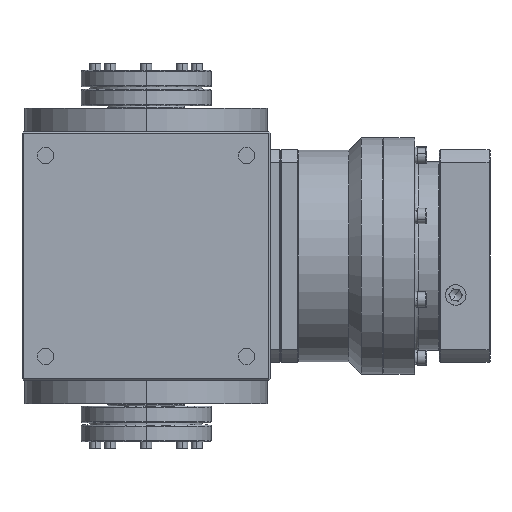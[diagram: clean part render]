
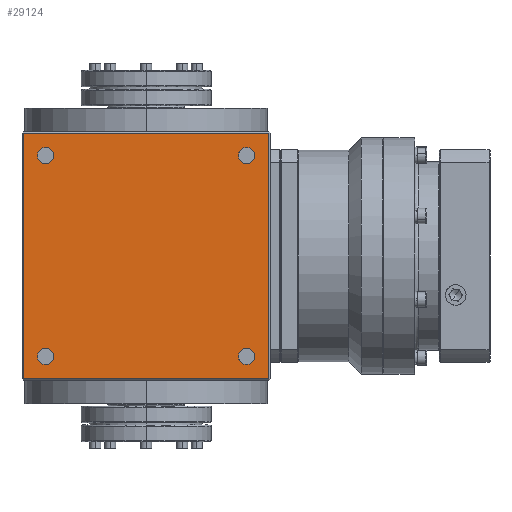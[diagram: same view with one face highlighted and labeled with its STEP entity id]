
A CAD part, left-side view. The second image highlights one B-rep face of the part: STEP entity #29124.
In plain terms, the highlighted planar face has unit normal (-1, 0, 0).
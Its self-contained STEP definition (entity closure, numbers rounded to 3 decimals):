
#639 = ORIENTED_EDGE ( 'NONE', *, *, #10926, .T. ) ;
#918 = EDGE_CURVE ( 'NONE', #35827, #5108, #8283, .T. ) ;
#1322 = LINE ( 'NONE', #35251, #30535 ) ;
#1359 = DIRECTION ( 'NONE',  ( 0., 0., 1. ) ) ;
#2185 = CARTESIAN_POINT ( 'NONE',  ( -105., 85., 92. ) ) ;
#2782 = VERTEX_POINT ( 'NONE', #10940 ) ;
#3559 = VERTEX_POINT ( 'NONE', #2185 ) ;
#3730 = DIRECTION ( 'NONE',  ( 0., 0., 1. ) ) ;
#4214 = CIRCLE ( 'NONE', #16076, 7. ) ;
#4526 = DIRECTION ( 'NONE',  ( 0., 1., 0. ) ) ;
#4630 = EDGE_CURVE ( 'NONE', #3559, #14500, #4214, .T. ) ;
#4718 = DIRECTION ( 'NONE',  ( 1., 0., 0. ) ) ;
#4726 = CARTESIAN_POINT ( 'NONE',  ( -105., 105., -104. ) ) ;
#4922 = DIRECTION ( 'NONE',  ( 0., 0., 1. ) ) ;
#4924 = CARTESIAN_POINT ( 'NONE',  ( -105., -85., 78. ) ) ;
#4932 = AXIS2_PLACEMENT_3D ( 'NONE', #14213, #11109, #10510 ) ;
#4976 = ORIENTED_EDGE ( 'NONE', *, *, #22644, .T. ) ;
#5108 = VERTEX_POINT ( 'NONE', #39329 ) ;
#5401 = EDGE_CURVE ( 'NONE', #18583, #21544, #31016, .T. ) ;
#6432 = CARTESIAN_POINT ( 'NONE',  ( -105., 85., -85. ) ) ;
#6719 = EDGE_CURVE ( 'NONE', #14500, #3559, #25677, .T. ) ;
#7036 = ORIENTED_EDGE ( 'NONE', *, *, #10152, .T. ) ;
#7819 = CARTESIAN_POINT ( 'NONE',  ( -105., -85., -85. ) ) ;
#7827 = VERTEX_POINT ( 'NONE', #25464 ) ;
#8065 = VECTOR ( 'NONE', #10081, 1000. ) ;
#8144 = EDGE_LOOP ( 'NONE', ( #38658, #35632 ) ) ;
#8259 = AXIS2_PLACEMENT_3D ( 'NONE', #23483, #4718, #4922 ) ;
#8283 = CIRCLE ( 'NONE', #8259, 7. ) ;
#8310 = LINE ( 'NONE', #18009, #15072 ) ;
#8893 = FACE_BOUND ( 'NONE', #18760, .T. ) ;
#8936 = DIRECTION ( 'NONE',  ( 0., 1., 0. ) ) ;
#10081 = DIRECTION ( 'NONE',  ( 0., 0., 1. ) ) ;
#10152 = EDGE_CURVE ( 'NONE', #5108, #35827, #22631, .T. ) ;
#10189 = DIRECTION ( 'NONE',  ( 0., 0., 1. ) ) ;
#10195 = CARTESIAN_POINT ( 'NONE',  ( -105., 85., 78. ) ) ;
#10214 = EDGE_LOOP ( 'NONE', ( #4976, #40878, #639, #32397 ) ) ;
#10510 = DIRECTION ( 'NONE',  ( 0., 0., 1. ) ) ;
#10926 = EDGE_CURVE ( 'NONE', #28114, #16992, #1322, .T. ) ;
#10940 = CARTESIAN_POINT ( 'NONE',  ( -105., -104., -104. ) ) ;
#11109 = DIRECTION ( 'NONE',  ( 1., 0., 0. ) ) ;
#11997 = CARTESIAN_POINT ( 'NONE',  ( -105., -85., -78. ) ) ;
#12770 = EDGE_CURVE ( 'NONE', #32969, #7827, #31982, .T. ) ;
#13193 = AXIS2_PLACEMENT_3D ( 'NONE', #6432, #19612, #3730 ) ;
#13580 = AXIS2_PLACEMENT_3D ( 'NONE', #25378, #34928, #18981 ) ;
#14213 = CARTESIAN_POINT ( 'NONE',  ( -105., -85., 85. ) ) ;
#14500 = VERTEX_POINT ( 'NONE', #10195 ) ;
#14820 = DIRECTION ( 'NONE',  ( 1., 0., 0. ) ) ;
#14839 = EDGE_LOOP ( 'NONE', ( #23726, #39467 ) ) ;
#14929 = EDGE_LOOP ( 'NONE', ( #26422, #28140 ) ) ;
#15002 = EDGE_CURVE ( 'NONE', #21544, #18583, #27689, .T. ) ;
#15072 = VECTOR ( 'NONE', #8936, 1000. ) ;
#15493 = FACE_BOUND ( 'NONE', #8144, .T. ) ;
#16076 = AXIS2_PLACEMENT_3D ( 'NONE', #23849, #20345, #1359 ) ;
#16685 = CARTESIAN_POINT ( 'NONE',  ( -105., 104., 104. ) ) ;
#16992 = VERTEX_POINT ( 'NONE', #22292 ) ;
#17705 = CARTESIAN_POINT ( 'NONE',  ( -105., 85., -85. ) ) ;
#17707 = CARTESIAN_POINT ( 'NONE',  ( -105., -104., 104. ) ) ;
#18009 = CARTESIAN_POINT ( 'NONE',  ( -105., 0., 104. ) ) ;
#18583 = VERTEX_POINT ( 'NONE', #30958 ) ;
#18650 = AXIS2_PLACEMENT_3D ( 'NONE', #7819, #35548, #39451 ) ;
#18760 = EDGE_LOOP ( 'NONE', ( #35322, #7036 ) ) ;
#18981 = DIRECTION ( 'NONE',  ( 0., 0., 1. ) ) ;
#19612 = DIRECTION ( 'NONE',  ( 1., 0., 0. ) ) ;
#20345 = DIRECTION ( 'NONE',  ( 1., 0., 0. ) ) ;
#21465 = FACE_BOUND ( 'NONE', #14929, .T. ) ;
#21544 = VERTEX_POINT ( 'NONE', #32178 ) ;
#22292 = CARTESIAN_POINT ( 'NONE',  ( -105., 104., -104. ) ) ;
#22631 = CIRCLE ( 'NONE', #18650, 7. ) ;
#22644 = EDGE_CURVE ( 'NONE', #2782, #29360, #37610, .T. ) ;
#23483 = CARTESIAN_POINT ( 'NONE',  ( -105., -85., -85. ) ) ;
#23698 = AXIS2_PLACEMENT_3D ( 'NONE', #29178, #36006, #10189 ) ;
#23726 = ORIENTED_EDGE ( 'NONE', *, *, #5401, .T. ) ;
#23849 = CARTESIAN_POINT ( 'NONE',  ( -105., 85., 85. ) ) ;
#24777 = CIRCLE ( 'NONE', #13580, 7. ) ;
#25378 = CARTESIAN_POINT ( 'NONE',  ( -105., -85., 85. ) ) ;
#25464 = CARTESIAN_POINT ( 'NONE',  ( -105., -85., 92. ) ) ;
#25574 = CARTESIAN_POINT ( 'NONE',  ( -105., 105., -105. ) ) ;
#25677 = CIRCLE ( 'NONE', #23698, 7. ) ;
#26422 = ORIENTED_EDGE ( 'NONE', *, *, #4630, .T. ) ;
#27689 = CIRCLE ( 'NONE', #37649, 7. ) ;
#28114 = VERTEX_POINT ( 'NONE', #16685 ) ;
#28140 = ORIENTED_EDGE ( 'NONE', *, *, #6719, .T. ) ;
#29081 = EDGE_CURVE ( 'NONE', #7827, #32969, #24777, .T. ) ;
#29124 = ADVANCED_FACE ( 'NONE', ( #31198, #15493, #31798, #8893, #21465 ), #34105, .T. ) ;
#29178 = CARTESIAN_POINT ( 'NONE',  ( -105., 85., 85. ) ) ;
#29360 = VERTEX_POINT ( 'NONE', #17707 ) ;
#29783 = VECTOR ( 'NONE', #4526, 1000. ) ;
#29815 = DIRECTION ( 'NONE',  ( 0., 0., -1. ) ) ;
#30059 = AXIS2_PLACEMENT_3D ( 'NONE', #25574, #38232, #35736 ) ;
#30338 = LINE ( 'NONE', #4726, #29783 ) ;
#30535 = VECTOR ( 'NONE', #29815, 1000. ) ;
#30958 = CARTESIAN_POINT ( 'NONE',  ( -105., 85., -78. ) ) ;
#31016 = CIRCLE ( 'NONE', #13193, 7. ) ;
#31198 = FACE_OUTER_BOUND ( 'NONE', #10214, .T. ) ;
#31798 = FACE_BOUND ( 'NONE', #14839, .T. ) ;
#31982 = CIRCLE ( 'NONE', #4932, 7. ) ;
#32178 = CARTESIAN_POINT ( 'NONE',  ( -105., 85., -92. ) ) ;
#32397 = ORIENTED_EDGE ( 'NONE', *, *, #36151, .F. ) ;
#32969 = VERTEX_POINT ( 'NONE', #4924 ) ;
#34105 = PLANE ( 'NONE',  #30059 ) ;
#34702 = CARTESIAN_POINT ( 'NONE',  ( -105., -104., -105. ) ) ;
#34928 = DIRECTION ( 'NONE',  ( 1., 0., 0. ) ) ;
#35251 = CARTESIAN_POINT ( 'NONE',  ( -105., 104., -105. ) ) ;
#35322 = ORIENTED_EDGE ( 'NONE', *, *, #918, .T. ) ;
#35548 = DIRECTION ( 'NONE',  ( 1., 0., 0. ) ) ;
#35632 = ORIENTED_EDGE ( 'NONE', *, *, #12770, .T. ) ;
#35736 = DIRECTION ( 'NONE',  ( 0., -1., 0. ) ) ;
#35827 = VERTEX_POINT ( 'NONE', #11997 ) ;
#36006 = DIRECTION ( 'NONE',  ( 1., 0., 0. ) ) ;
#36151 = EDGE_CURVE ( 'NONE', #2782, #16992, #30338, .T. ) ;
#37610 = LINE ( 'NONE', #34702, #8065 ) ;
#37649 = AXIS2_PLACEMENT_3D ( 'NONE', #17705, #14820, #39430 ) ;
#38232 = DIRECTION ( 'NONE',  ( -1., 0., 0. ) ) ;
#38658 = ORIENTED_EDGE ( 'NONE', *, *, #29081, .T. ) ;
#39329 = CARTESIAN_POINT ( 'NONE',  ( -105., -85., -92. ) ) ;
#39430 = DIRECTION ( 'NONE',  ( 0., 0., 1. ) ) ;
#39451 = DIRECTION ( 'NONE',  ( 0., 0., 1. ) ) ;
#39467 = ORIENTED_EDGE ( 'NONE', *, *, #15002, .T. ) ;
#40199 = EDGE_CURVE ( 'NONE', #29360, #28114, #8310, .T. ) ;
#40878 = ORIENTED_EDGE ( 'NONE', *, *, #40199, .T. ) ;
